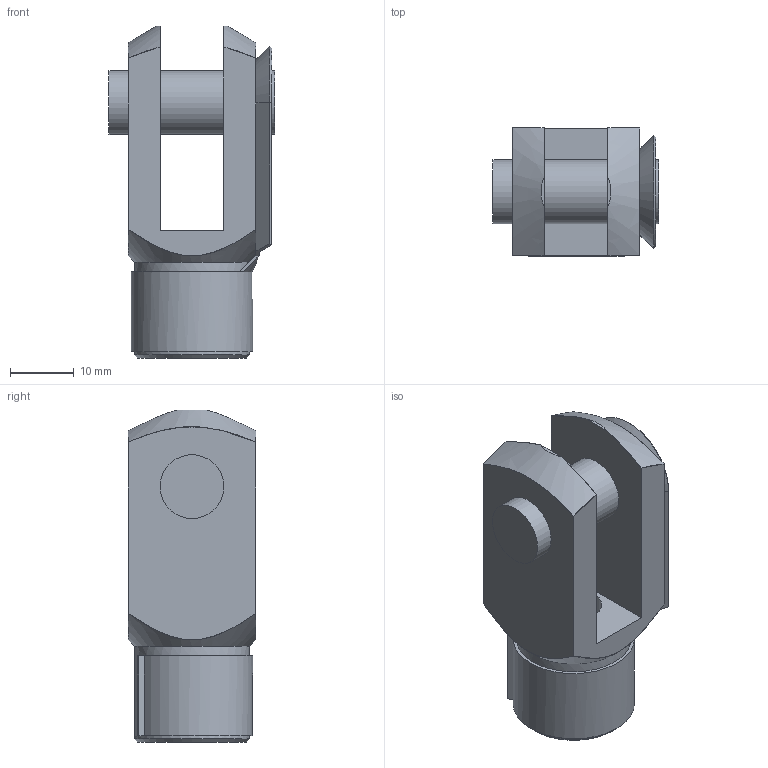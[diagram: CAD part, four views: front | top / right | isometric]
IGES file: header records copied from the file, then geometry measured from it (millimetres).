
Global section: file name: No Iges File Name specified; native system: AutoDesk Inventor R6.0; preprocessor: AutoDesk Inventor Iges Exporter R6.0; author: No Author specified; organization: No Organization specified; date: 20030418.091352; units: millimetre
Bounding box: 26 x 20 x 52 mm (x, y, z)
Surface area: 6277.6 mm2 (no closed solid volume)
Topology: 0 solids, 0 shells, 54 faces, 264 edges, 255 vertices
Faces by surface type: plane 35, revolution 14, bspline 5
